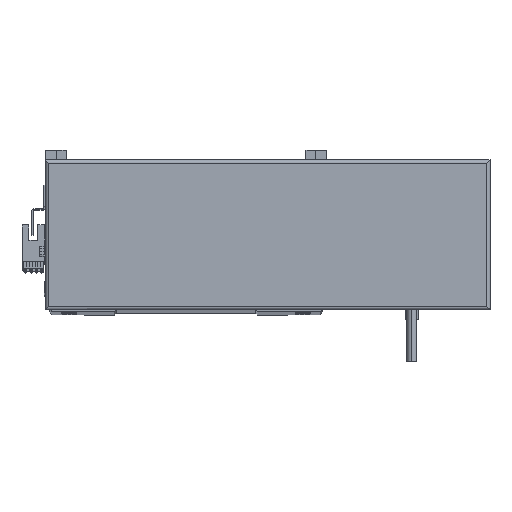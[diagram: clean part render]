
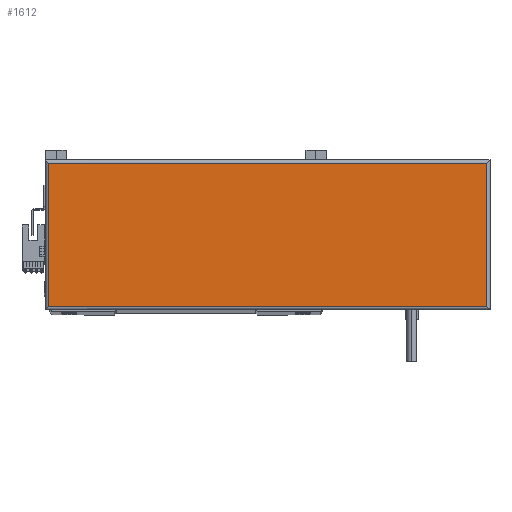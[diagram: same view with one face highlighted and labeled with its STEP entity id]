
A CAD part, top view. The second image highlights one B-rep face of the part: STEP entity #1612.
In plain terms, the highlighted planar face has unit normal (0, 0, 1).
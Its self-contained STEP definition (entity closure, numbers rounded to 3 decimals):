
#1612 = ADVANCED_FACE ( 'NONE', ( #33689 ), #3831, .T. ) ;
#2488 = LINE ( 'NONE', #28312, #22906 ) ;
#3195 = VERTEX_POINT ( 'NONE', #15180 ) ;
#3831 = PLANE ( 'NONE',  #25802 ) ;
#5100 = ORIENTED_EDGE ( 'NONE', *, *, #23704, .T. ) ;
#9494 = VECTOR ( 'NONE', #37385, 1000. ) ;
#10639 = ORIENTED_EDGE ( 'NONE', *, *, #19367, .T. ) ;
#12385 = DIRECTION ( 'NONE',  ( 0., -1., 0. ) ) ;
#15180 = CARTESIAN_POINT ( 'NONE',  ( 2., 2., 44.8 ) ) ;
#19367 = EDGE_CURVE ( 'NONE', #40834, #40978, #47120, .T. ) ;
#22906 = VECTOR ( 'NONE', #31522, 1000. ) ;
#23447 = CARTESIAN_POINT ( 'NONE',  ( 265., 2., 44.8 ) ) ;
#23704 = EDGE_CURVE ( 'NONE', #40978, #3195, #40635, .T. ) ;
#25802 = AXIS2_PLACEMENT_3D ( 'NONE', #34229, #30492, #38040 ) ;
#26462 = CARTESIAN_POINT ( 'NONE',  ( 2., 88., 44.8 ) ) ;
#27223 = EDGE_CURVE ( 'NONE', #46526, #40834, #2488, .T. ) ;
#27379 = VECTOR ( 'NONE', #12385, 1000. ) ;
#28312 = CARTESIAN_POINT ( 'NONE',  ( 265., 90., 44.8 ) ) ;
#30492 = DIRECTION ( 'NONE',  ( 0., 0., 1. ) ) ;
#30851 = EDGE_CURVE ( 'NONE', #3195, #46526, #32323, .T. ) ;
#31522 = DIRECTION ( 'NONE',  ( 0., 1., 0. ) ) ;
#32323 = LINE ( 'NONE', #40759, #9494 ) ;
#33689 = FACE_OUTER_BOUND ( 'NONE', #33791, .T. ) ;
#33791 = EDGE_LOOP ( 'NONE', ( #46819, #10639, #5100, #47548 ) ) ;
#34229 = CARTESIAN_POINT ( 'NONE',  ( 133.5, 45., 44.8 ) ) ;
#34878 = CARTESIAN_POINT ( 'NONE',  ( 2., 0., 44.8 ) ) ;
#37385 = DIRECTION ( 'NONE',  ( 1., 0., 0. ) ) ;
#38040 = DIRECTION ( 'NONE',  ( 1., 0., 0. ) ) ;
#40267 = CARTESIAN_POINT ( 'NONE',  ( 265., 88., 44.8 ) ) ;
#40635 = LINE ( 'NONE', #34878, #27379 ) ;
#40759 = CARTESIAN_POINT ( 'NONE',  ( 267., 2., 44.8 ) ) ;
#40834 = VERTEX_POINT ( 'NONE', #40267 ) ;
#40978 = VERTEX_POINT ( 'NONE', #26462 ) ;
#41124 = VECTOR ( 'NONE', #49411, 1000. ) ;
#46526 = VERTEX_POINT ( 'NONE', #23447 ) ;
#46819 = ORIENTED_EDGE ( 'NONE', *, *, #27223, .T. ) ;
#47120 = LINE ( 'NONE', #49573, #41124 ) ;
#47548 = ORIENTED_EDGE ( 'NONE', *, *, #30851, .T. ) ;
#49411 = DIRECTION ( 'NONE',  ( -1., 0., 0. ) ) ;
#49573 = CARTESIAN_POINT ( 'NONE',  ( 0., 88., 44.8 ) ) ;
